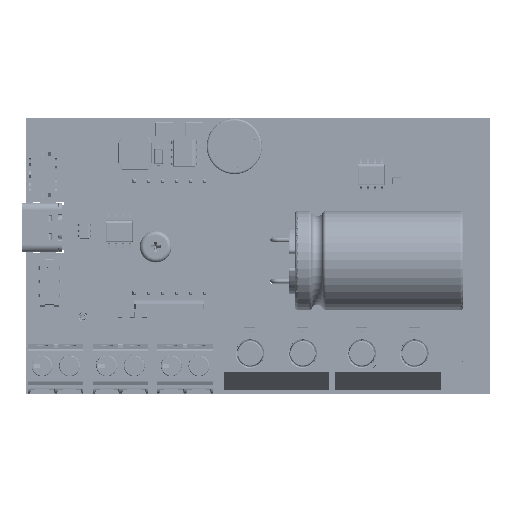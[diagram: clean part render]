
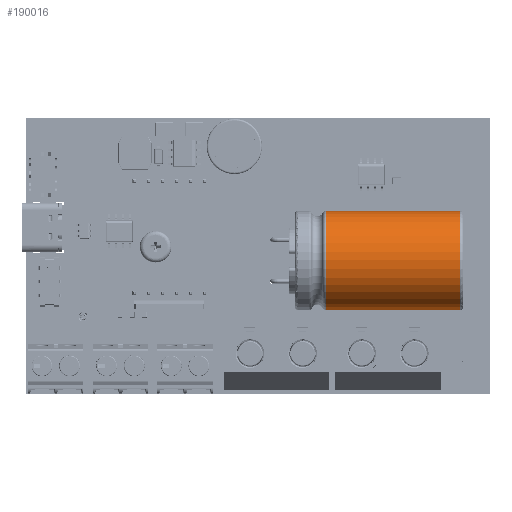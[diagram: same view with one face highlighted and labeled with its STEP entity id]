
A CAD part, top view. The second image highlights one B-rep face of the part: STEP entity #190016.
In plain terms, the highlighted cylindrical face has radius 9 mm (diameter 18 mm), a full revolution.
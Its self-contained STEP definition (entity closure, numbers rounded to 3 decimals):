
#8097=CIRCLE('',#201064,9.);
#8103=CIRCLE('',#201071,9.);
#10644=CYLINDRICAL_SURFACE('',#201086,9.);
#18789=FACE_OUTER_BOUND('',#29342,.T.);
#29342=EDGE_LOOP('',(#150902,#150903,#150904,#150905,#150906,#150907,#150908,
#150909));
#46532=LINE('',#303205,#67308);
#46533=LINE('',#303206,#67309);
#46534=LINE('',#303207,#67310);
#67308=VECTOR('',#231215,9.);
#67309=VECTOR('',#231216,10.);
#67310=VECTOR('',#231217,9.);
#85968=VERTEX_POINT('',#301165);
#85969=VERTEX_POINT('',#301166);
#86540=VERTEX_POINT('',#303169);
#86545=VERTEX_POINT('',#303180);
#109771=EDGE_CURVE('',#86540,#86540,#8097,.T.);
#109777=EDGE_CURVE('',#86545,#86545,#8103,.T.);
#109789=EDGE_CURVE('',#86545,#85969,#46532,.T.);
#109790=EDGE_CURVE('',#85968,#85969,#46533,.T.);
#109791=EDGE_CURVE('',#85968,#86540,#46534,.T.);
#150902=ORIENTED_EDGE('',*,*,#109777,.T.);
#150903=ORIENTED_EDGE('',*,*,#109789,.T.);
#150904=ORIENTED_EDGE('',*,*,#109790,.F.);
#150905=ORIENTED_EDGE('',*,*,#109791,.T.);
#150906=ORIENTED_EDGE('',*,*,#109771,.T.);
#150907=ORIENTED_EDGE('',*,*,#109791,.F.);
#150908=ORIENTED_EDGE('',*,*,#109790,.T.);
#150909=ORIENTED_EDGE('',*,*,#109789,.F.);
#190016=ADVANCED_FACE('',(#18789),#10644,.T.);
#201064=AXIS2_PLACEMENT_3D('',#303170,#231169,#231170);
#201071=AXIS2_PLACEMENT_3D('',#303182,#231183,#231184);
#201086=AXIS2_PLACEMENT_3D('',#303204,#231213,#231214);
#231169=DIRECTION('center_axis',(1.,0.,0.));
#231170=DIRECTION('ref_axis',(0.,0.,
1.));
#231183=DIRECTION('center_axis',(-1.,0.,0.));
#231184=DIRECTION('ref_axis',(0.,0.,
1.));
#231213=DIRECTION('center_axis',(1.,0.,0.));
#231214=DIRECTION('ref_axis',(0.,0.,
1.));
#231215=DIRECTION('',(-1.,0.,0.));
#231216=DIRECTION('',(1.,0.,0.));
#231217=DIRECTION('',(-1.,0.,0.));
#301165=CARTESIAN_POINT('',(72.7,24.15,3.));
#301166=CARTESIAN_POINT('',(77.7,24.15,3.));
#303169=CARTESIAN_POINT('',(54.25,24.15,3.));
#303170=CARTESIAN_POINT('Origin',(54.25,24.15,12.));
#303180=CARTESIAN_POINT('',(78.65,24.15,3.));
#303182=CARTESIAN_POINT('Origin',(78.65,24.15,12.));
#303204=CARTESIAN_POINT('Origin',(79.15,24.15,12.));
#303205=CARTESIAN_POINT('',(79.15,24.15,3.));
#303206=CARTESIAN_POINT('',(79.15,24.15,3.));
#303207=CARTESIAN_POINT('',(79.15,24.15,3.));
